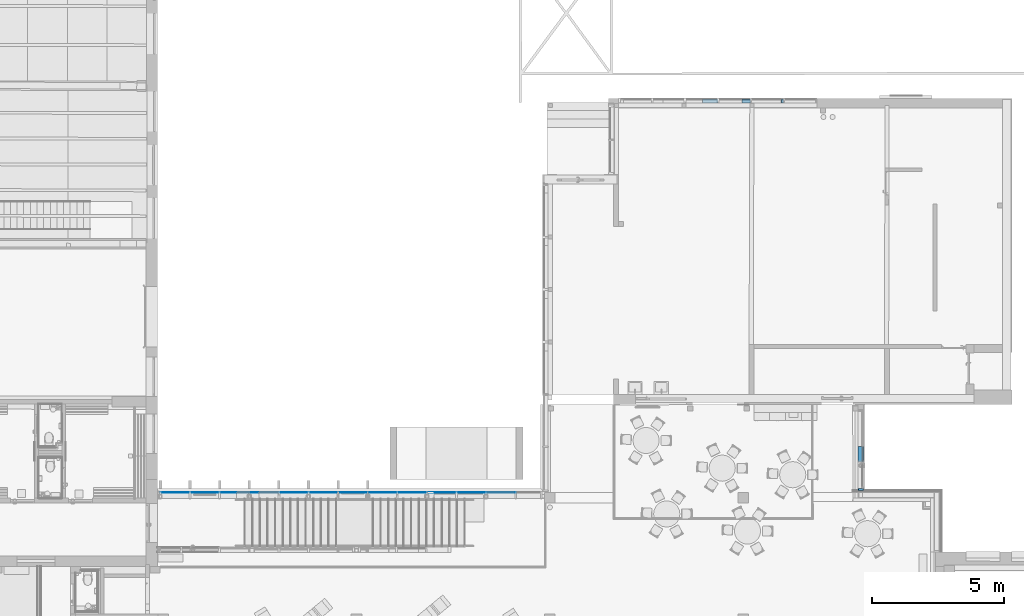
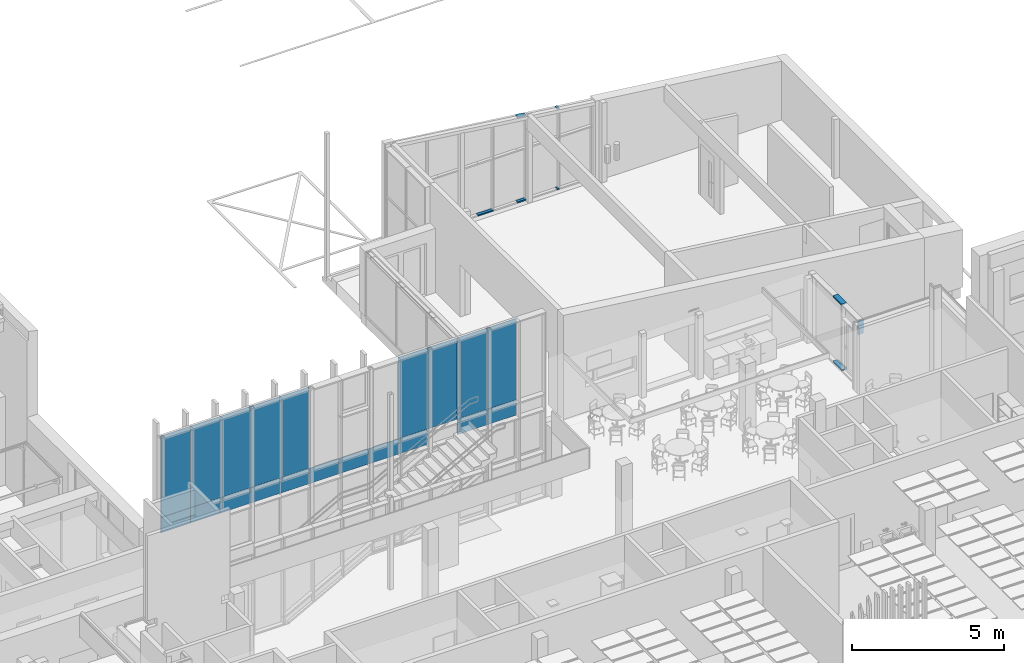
# One storey, part 6 of 301: 20 plates, 8 members, 3 elements without a shape of their own.
"""IFC2X3 building model written with IfcOpenShell, lengths in millimetres."""

from ifc_helpers import new_model, entity, si_unit, converted_unit, derived_unit, money_unit, direction, frame, origin_with_axes, place, context, subcontext, project, spatial, faceted_brep, source, transform, mapped, material, type_object, element, aggregate, save


model = new_model("IFC2X3")

# Units and contexts
model_context = context("Model", 3, precision=0.01, world=origin_with_axes(), true_north=direction((0.0, 1.0)))
body_context = subcontext(model_context, "Body", "Model", "MODEL_VIEW")
ifc_project = project(units=[si_unit("LENGTHUNIT", "METRE", prefix="MILLI"), si_unit("AREAUNIT", "SQUARE_METRE"), si_unit("VOLUMEUNIT", "CUBIC_METRE"), converted_unit("PLANEANGLEUNIT", "DEGREE", entity("IfcPlaneAngleMeasure", 0.0174532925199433), si_unit("PLANEANGLEUNIT", "RADIAN"), dimensions=[0, 0, 0, 0, 0, 0, 0]), money_unit("EUR"), converted_unit("TIMEUNIT", "Year", entity("IfcTimeMeasure", 31557600.0), si_unit("TIMEUNIT", "SECOND"), dimensions=[0, 0, 1, 0, 0, 0, 0]), si_unit("MASSUNIT", "GRAM", prefix="KILO"), si_unit("THERMODYNAMICTEMPERATUREUNIT", "DEGREE_CELSIUS"), si_unit("LUMINOUSINTENSITYUNIT", "LUMEN"), si_unit("ENERGYUNIT", "JOULE", prefix="MEGA"), derived_unit("THERMALCONDUCTANCEUNIT", [(si_unit("POWERUNIT", "WATT"), 1), (si_unit("LENGTHUNIT", "METRE"), -1), (si_unit("THERMODYNAMICTEMPERATUREUNIT", "KELVIN"), -1)]), derived_unit("SPECIFICHEATCAPACITYUNIT", [(si_unit("ENERGYUNIT", "JOULE"), 1), (si_unit("MASSUNIT", "GRAM", prefix="KILO"), -1), (si_unit("THERMODYNAMICTEMPERATUREUNIT", "KELVIN"), -1)]), derived_unit("MASSDENSITYUNIT", [(si_unit("MASSUNIT", "GRAM", prefix="KILO"), 1), (si_unit("VOLUMEUNIT", "CUBIC_METRE"), -1)])], contexts=[model_context])

# Site, building, storey
site_placement = place(None, frame((0.0, 0.0, 8650.0), z_axis=(0.0, 0.0, 1.0), x_axis=(1.0, 0.0, 0.0)))
site = spatial("IfcSite", under=ifc_project, at=site_placement, Name="43301:001:0844", CompositionType="ELEMENT")
building_placement = place(site_placement, origin_with_axes())
building = spatial("IfcBuilding", under=site, at=building_placement, Name="Kuressaare Ametikooli tuulikute mehaanikute õppekorpus", CompositionType="ELEMENT")
storey_placement = place(building_placement, origin_with_axes())
storey = spatial("IfcBuildingStorey", under=building, at=storey_placement, Name="1.korrus", CompositionType="ELEMENT", Elevation=0.0)

# Curtain wall, members
curtain_wall_type = type_object("IfcCurtainWallType", Name="Curtain Wall Type", PredefinedType="NOTDEFINED")
curtain_wall_1_placement = place(storey_placement, frame((130440.0312746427, 29344.34887802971, 34.99990943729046), z_axis=(0.0, 0.0, 1.0), x_axis=(1.0, 0.0, 0.0)))
curtain_wall_1 = element("IfcCurtainWall", 1, at=curtain_wall_1_placement, inside=storey, type_object=curtain_wall_type, Name="KF-2")
ifc_material_1 = material(Name="Aluminium")
member_type_1 = type_object("IfcMemberType", Name="Boundary Frame 50 x 200", PredefinedType="NOTDEFINED")
member_1_placement = place(curtain_wall_1_placement, frame((0.9667074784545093, -644.5809647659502, 2075.000044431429), z_axis=(0.0, -2.473884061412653e-10, 1.0), x_axis=(-0.001499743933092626, 0.9999988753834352, 2.473886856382e-10)))
member_1 = element("IfcMember", 2, at=member_1_placement, type_object=member_type_1, material=ifc_material_1, context=body_context, shape_type="Brep", body=[
    faceted_brep([(5.000000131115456, 19.99999999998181, 529.9999923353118), (25.0000001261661, 19.99999999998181, 509.9999923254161), (25.00000012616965, 159.9999999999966, 509.9999923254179), (-24.99999986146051, 159.9999999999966, 559.9999923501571), (-24.99999986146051, -40.00000000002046, 559.999992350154), (25.00000012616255, -40.00000000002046, 509.9999923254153), (25.0000001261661, -20.00000000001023, 509.9999923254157), (5.000000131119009, -19.99999999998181, 529.9999923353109), (5.00000000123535, 19.99999999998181, 4.999999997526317), (25.00000000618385, 19.99999999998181, 24.99999998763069), (25.00000000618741, 159.9999999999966, 24.99999998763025), (0.0, 159.9999999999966, 0.0), (-24.99999999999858, 159.9999999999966, 6.184830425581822e-09), (-24.99999999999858, -40.00000000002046, 6.184830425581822e-09), (0.0, -39.99999999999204, 0.0), (25.0000000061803, -40.00000000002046, 24.99999998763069), (25.00000000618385, -20.00000000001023, 24.99999998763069), (5.000000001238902, -19.99999999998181, 4.999999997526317)], [[[0, 1, 2, 3, 4, 5, 6, 7]], [[0, 8, 9, 1]], [[9, 10, 2, 1]], [[2, 10, 11, 12, 3]], [[3, 12, 13, 4]], [[13, 14, 15, 5, 4]], [[6, 5, 15, 16]], [[16, 17, 7, 6]], [[7, 17, 8, 0]], [[8, 17, 16, 15, 14, 11, 10, 9]], [[11, 14, 13, 12]]]),
])
member_2_placement = place(curtain_wall_1_placement, frame((-1.491552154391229, 994.53676327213, 0.0), z_axis=(0.001499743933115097, -0.9999988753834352, 0.0), x_axis=(0.0, 0.0, 1.0)))
member_2 = element("IfcMember", 3, at=member_2_placement, type_object=member_type_1, material=ifc_material_1, context=body_context, shape_type="Brep", body=[
    faceted_brep([(5.000000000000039, 20.00000000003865, 589.8167552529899), (25.00000000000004, 20.00000000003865, 589.8167552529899), (25.00000000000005, 159.9999999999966, 589.8167552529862), (-24.99999999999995, 159.9999999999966, 589.8167552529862), (-24.99999999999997, -39.99999999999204, 589.8167552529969), (25.00000000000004, -39.99999999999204, 589.8167552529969), (25.00000000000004, -20.00000000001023, 589.8167552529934), (5.000000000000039, -20.00000000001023, 589.8167552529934), (5.000000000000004, 19.99999999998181, 0.0), (25.0, 19.99999999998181, 0.0), (25.00000000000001, 159.9999999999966, 0.0), (-24.99999999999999, 159.9999999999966, 0.0), (-25.0, -40.00000000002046, 0.0), (24.99999999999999, -40.00000000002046, 0.0), (25.0, -20.00000000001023, 0.0), (4.999999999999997, -20.00000000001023, 0.0)], [[[0, 1, 2, 3, 4, 5, 6, 7]], [[0, 8, 9, 1]], [[9, 10, 2, 1]], [[10, 11, 3, 2]], [[11, 12, 4, 3]], [[12, 13, 5, 4]], [[6, 5, 13, 14]], [[14, 15, 7, 6]], [[7, 15, 8, 0]], [[8, 15, 14, 13, 12, 11, 10, 9]]]),
])
member_3_placement = place(curtain_wall_1_placement, frame((-0.6444716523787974, 429.7206432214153, 2610.000036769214), z_axis=(-0.001499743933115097, 0.9999988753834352, 0.0), x_axis=(0.0, 0.0, -1.0)))
member_3 = element("IfcMember", 4, at=member_3_placement, type_object=member_type_1, material=ifc_material_1, context=body_context, shape_type="Brep", body=[
    faceted_brep([(4.999999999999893, 19.99999999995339, 564.8167552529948), (24.99999999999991, 19.99999999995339, 564.8167552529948), (24.99999999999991, 159.9999999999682, 564.8167552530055), (-24.99999999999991, 159.9999999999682, 564.8167552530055), (-24.99999999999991, -40.00000000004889, 564.8167552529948), (24.99999999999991, -40.00000000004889, 564.8167552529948), (24.99999999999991, -20.00000000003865, 564.8167552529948), (4.999999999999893, -20.00000000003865, 564.8167552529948), (4.999999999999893, 19.99999999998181, 0.0), (24.99999999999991, 19.99999999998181, 0.0), (24.99999999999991, 159.9999999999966, 0.0), (-24.99999999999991, 159.9999999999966, 0.0), (-24.99999999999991, -40.00000000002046, 0.0), (24.99999999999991, -40.00000000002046, 0.0), (24.99999999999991, -20.00000000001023, 0.0), (4.999999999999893, -20.00000000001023, 0.0)], [[[0, 1, 2, 3, 4, 5, 6, 7]], [[0, 8, 9, 1]], [[9, 10, 2, 1]], [[10, 11, 3, 2]], [[11, 12, 4, 3]], [[12, 13, 5, 4]], [[6, 5, 13, 14]], [[14, 15, 7, 6]], [[7, 15, 8, 0]], [[8, 15, 14, 13, 12, 11, 10, 9]]]),
])
aggregate(curtain_wall_1, [member_1, member_2, member_3])

curtain_wall_2_placement = place(storey_placement, frame((123006.726034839, 43517.8284534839, -3.991420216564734e-05), z_axis=(0.0, 0.0, 1.0), x_axis=(1.0, 0.0, 0.0)))
curtain_wall_2 = element("IfcCurtainWall", 5, at=curtain_wall_2_placement, inside=storey, type_object=curtain_wall_type, Name="KF-XX")
ifc_material_2 = material(Name="Metall - Alumiinium")
member_type_2 = type_object("IfcMemberType", Name="Boundary Frame 50 x 150", PredefinedType="NOTDEFINED")
member_4_placement = place(curtain_wall_2_placement, frame((4357.128657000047, 0.0, 3288.367086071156), z_axis=(0.9924854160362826, 0.0, -0.1223629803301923), x_axis=(-0.1223629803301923, 0.0, -0.9924854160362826)))
member_4 = element("IfcMember", 6, at=member_4_placement, type_object=member_type_2, material=ifc_material_2, context=body_context, shape_type="Brep", body=[
    faceted_brep([(35.00000000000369, -9.99999999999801, 88.10075471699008), (35.00000000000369, 9.99999999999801, 88.10075471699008), (50.00000000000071, 9.99999999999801, 88.10075471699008), (50.00000000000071, 30.00000000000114, 88.10075471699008), (0.0, 30.00000000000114, 88.10075471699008), (0.0, 0.0, 88.10075471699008), (0.0, -119.9999999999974, 88.10075471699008), (50.00000000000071, -119.9999999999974, 88.10075471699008), (50.00000000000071, -9.99999999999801, 88.10075471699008), (35.00000000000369, -9.99999999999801, -1.330064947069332e-06), (35.00000000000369, 9.99999999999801, -1.330064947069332e-06), (50.00000000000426, 9.99999999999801, -1.330079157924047e-06), (50.00000000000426, 30.00000000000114, -1.330079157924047e-06), (0.0, 30.00000000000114, -1.330050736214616e-06), (0.0, 0.0, -1.330050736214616e-06), (0.0, -119.9999999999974, -1.330050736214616e-06), (50.00000000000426, -119.9999999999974, -1.330079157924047e-06), (50.00000000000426, -9.99999999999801, -1.330079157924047e-06)], [[[0, 1, 2, 3, 4, 5, 6, 7, 8]], [[1, 0, 9, 10]], [[11, 2, 1, 10]], [[2, 11, 12, 3]], [[13, 4, 3, 12]], [[14, 5, 4, 13]], [[15, 6, 5, 14]], [[16, 7, 6, 15]], [[17, 8, 7, 16]], [[0, 8, 17, 9]], [[9, 17, 16, 15, 14, 13, 12, 11, 10]]]),
])
member_5_placement = place(curtain_wall_2_placement, frame((2857.128657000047, 0.0, 3473.30117892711), z_axis=(0.9924854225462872, 0.0, -0.1223629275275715), x_axis=(-0.1223629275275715, 0.0, -0.9924854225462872)))
member_5 = element("IfcMember", 7, at=member_5_placement, type_object=member_type_2, material=ifc_material_2, context=body_context, shape_type="Brep", body=[
    faceted_brep([(35.00000000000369, -9.99999999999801, 334.4755428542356), (35.00000000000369, 9.99999999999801, 334.4755428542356), (50.00000000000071, 9.99999999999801, 334.4755428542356), (50.00000000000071, 30.00000000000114, 334.4755428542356), (0.0, 30.00000000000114, 334.4755428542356), (0.0, 0.0, 334.4755428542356), (0.0, -119.9999999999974, 334.4755428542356), (50.00000000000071, -119.9999999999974, 334.4755428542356), (50.00000000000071, -9.99999999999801, 334.4755428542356), (35.00000000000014, -9.99999999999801, -6.635048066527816e-07), (35.00000000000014, 9.99999999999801, -6.635048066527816e-07), (50.00000000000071, 9.99999999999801, -6.635190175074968e-07), (50.00000000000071, 30.00000000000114, -6.635190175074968e-07), (0.0, 30.00000000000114, -6.635190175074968e-07), (0.0, 0.0, -6.635190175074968e-07), (0.0, -119.9999999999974, -6.635190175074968e-07), (50.00000000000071, -119.9999999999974, -6.635190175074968e-07), (50.00000000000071, -9.99999999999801, -6.635190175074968e-07)], [[[0, 1, 2, 3, 4, 5, 6, 7, 8]], [[1, 0, 9, 10]], [[11, 2, 1, 10]], [[2, 11, 12, 3]], [[13, 4, 3, 12]], [[14, 5, 4, 13]], [[15, 6, 5, 14]], [[16, 7, 6, 15]], [[17, 8, 7, 16]], [[0, 8, 17, 9]], [[9, 17, 16, 15, 14, 13, 12, 11, 10]]]),
])
member_6_placement = place(curtain_wall_2_placement, frame((1945.71281708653, 0.0, 0.0), z_axis=(-1.0, 0.0, 0.0), x_axis=(0.0, 0.0, 1.0)))
member_6 = element("IfcMember", 8, at=member_6_placement, type_object=member_type_2, material=ifc_material_2, context=body_context, shape_type="Brep", body=[
    faceted_brep([(35.0, -9.99999999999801, 588.5841600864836), (35.0, 9.99999999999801, 588.5841600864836), (50.0, 9.99999999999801, 588.5841600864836), (50.0, 30.00000000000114, 588.5841600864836), (0.0, 30.00000000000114, 588.5841600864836), (0.0, 0.0, 588.5841600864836), (0.0, -119.9999999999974, 588.5841600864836), (50.0, -119.9999999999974, 588.5841600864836), (50.0, -9.99999999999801, 588.5841600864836), (35.0, -9.99999999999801, 0.0), (35.0, 9.99999999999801, 0.0), (50.0, 9.99999999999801, 0.0), (50.0, 30.00000000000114, 0.0), (0.0, 30.00000000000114, 0.0), (0.0, 0.0, 0.0), (0.0, -119.9999999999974, 0.0), (50.0, -119.9999999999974, 0.0), (50.0, -9.99999999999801, 0.0)], [[[0, 1, 2, 3, 4, 5, 6, 7, 8]], [[1, 0, 9, 10]], [[11, 2, 1, 10]], [[2, 11, 12, 3]], [[13, 4, 3, 12]], [[14, 5, 4, 13]], [[15, 6, 5, 14]], [[16, 7, 6, 15]], [[17, 8, 7, 16]], [[0, 8, 17, 9]], [[9, 17, 16, 15, 14, 13, 12, 11, 10]]]),
])
member_7_placement = place(curtain_wall_2_placement, frame((3189.090760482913, 0.0, 0.0), z_axis=(-1.0, 0.0, 0.0), x_axis=(0.0, 0.0, 1.0)))
member_7 = element("IfcMember", 9, at=member_7_placement, type_object=member_type_2, material=ifc_material_2, context=body_context, shape_type="Brep", body=[
    faceted_brep([(35.0, -9.99999999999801, 331.9621034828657), (35.0, 9.99999999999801, 331.9621034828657), (50.0, 9.99999999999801, 331.9621034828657), (50.0, 30.00000000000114, 331.9621034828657), (0.0, 30.00000000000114, 331.9621034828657), (0.0, 0.0, 331.9621034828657), (0.0, -119.9999999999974, 331.9621034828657), (50.0, -119.9999999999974, 331.9621034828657), (50.0, -9.99999999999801, 331.9621034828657), (35.0, -9.99999999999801, 0.0), (35.0, 9.99999999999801, 0.0), (50.0, 9.99999999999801, 0.0), (50.0, 30.00000000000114, 0.0), (0.0, 30.00000000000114, 0.0), (0.0, 0.0, 0.0), (0.0, -119.9999999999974, 0.0), (50.0, -119.9999999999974, 0.0), (50.0, -9.99999999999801, 0.0)], [[[0, 1, 2, 3, 4, 5, 6, 7, 8]], [[1, 0, 9, 10]], [[11, 2, 1, 10]], [[2, 11, 12, 3]], [[13, 4, 3, 12]], [[14, 5, 4, 13]], [[15, 6, 5, 14]], [[16, 7, 6, 15]], [[17, 8, 7, 16]], [[0, 8, 17, 9]], [[9, 17, 16, 15, 14, 13, 12, 11, 10]]]),
])
member_8_placement = place(curtain_wall_2_placement, frame((4444.567365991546, 0.0, 0.0), z_axis=(-1.0, 0.0, 0.0), x_axis=(0.0, 0.0, 1.0)))
member_8 = element("IfcMember", 10, at=member_8_placement, type_object=member_type_2, material=ifc_material_2, context=body_context, shape_type="Brep", body=[
    faceted_brep([(35.0, -9.99999999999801, 87.43870899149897), (35.0, 9.99999999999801, 87.43870899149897), (50.0, 9.99999999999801, 87.43870899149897), (50.0, 30.00000000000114, 87.43870899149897), (0.0, 30.00000000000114, 87.43870899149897), (0.0, 0.0, 87.43870899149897), (0.0, -119.9999999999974, 87.43870899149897), (50.0, -119.9999999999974, 87.43870899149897), (50.0, -9.99999999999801, 87.43870899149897), (35.0, -9.99999999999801, 0.0), (35.0, 9.99999999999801, 0.0), (50.0, 9.99999999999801, 0.0), (50.0, 30.00000000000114, 0.0), (0.0, 30.00000000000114, 0.0), (0.0, 0.0, 0.0), (0.0, -119.9999999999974, 0.0), (50.0, -119.9999999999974, 0.0), (50.0, -9.99999999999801, 0.0)], [[[0, 1, 2, 3, 4, 5, 6, 7, 8]], [[1, 0, 9, 10]], [[11, 2, 1, 10]], [[2, 11, 12, 3]], [[13, 4, 3, 12]], [[14, 5, 4, 13]], [[15, 6, 5, 14]], [[16, 7, 6, 15]], [[17, 8, 7, 16]], [[0, 8, 17, 9]], [[9, 17, 16, 15, 14, 13, 12, 11, 10]]]),
])
aggregate(curtain_wall_2, [member_4, member_5, member_6, member_7, member_8])

# Curtain wall, plates
curtain_wall_3_placement = place(storey_placement, frame((116704.6026822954, 28579.57374875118, 35.00000000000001), z_axis=(0.0, 0.0, 1.0), x_axis=(1.0, 0.0, 0.0)))
curtain_wall_3 = element("IfcCurtainWall", 11, at=curtain_wall_3_placement, inside=storey, type_object=curtain_wall_type, Name="KF-1.1")
plate_type_1 = type_object("IfcPlateType", Name="1115 x 610 x 20", PredefinedType="NOTDEFINED")
shared_shape_1 = source(origin_with_axes(), body_context, "Body", "Brep", [
    faceted_brep([(-1120.00000558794, 4085.000008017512, -10.0), (-1120.00000558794, 4085.000008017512, 10.0), (-4.999994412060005, 4085.000008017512, 10.0), (-4.999994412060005, 4085.000008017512, -10.0), (-1120.00000558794, 3475.000002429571, -10.0), (-1120.00000558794, 3475.000002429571, 10.0), (-4.999994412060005, 3475.000002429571, 10.0), (-4.999994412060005, 3475.000002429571, -10.0)], [[[0, 1, 2, 3]], [[4, 5, 1, 0]], [[1, 5, 6, 2]], [[3, 2, 6, 7]], [[0, 3, 7, 4]], [[7, 6, 5, 4]]]),
])
plate_1_placement = place(curtain_wall_3_placement, frame((-1125.0, 0.0, 3780.000004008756), z_axis=(0.0, 0.0, 1.0), x_axis=(-1.0, 0.0, 0.0)))
plate_1 = element("IfcPlate", 12, at=plate_1_placement, type_object=plate_type_1, material=ifc_material_1, context=body_context, shape_type="MappedRepresentation", body=[
    mapped(shared_shape_1, transform((562.5, 0.0, -3780.000004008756), x_axis=(1.0, 0.0, 0.0), y_axis=(0.0, 0.0, 1.0), z_axis=(0.0, -1.0, 0.0))),
])
plate_2_placement = place(curtain_wall_3_placement, frame((0.0, 0.0, 3780.000004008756), z_axis=(0.0, 0.0, 1.0), x_axis=(-1.0, 0.0, 0.0)))
plate_2 = element("IfcPlate", 13, at=plate_2_placement, type_object=plate_type_1, material=ifc_material_1, context=body_context, shape_type="MappedRepresentation", body=[
    mapped(shared_shape_1, transform((562.5, 0.0, -3780.000004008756), x_axis=(1.0, 0.0, 0.0), y_axis=(0.0, 0.0, 1.0), z_axis=(0.0, -1.0, 0.0))),
])
plate_3_placement = place(curtain_wall_3_placement, frame((-5625.0, 0.0, 3780.000004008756), z_axis=(0.0, 0.0, 1.0), x_axis=(-1.0, 0.0, 0.0)))
plate_3 = element("IfcPlate", 14, at=plate_3_placement, type_object=plate_type_1, material=ifc_material_1, context=body_context, shape_type="MappedRepresentation", body=[
    mapped(shared_shape_1, transform((562.5, 0.0, -3780.000004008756), x_axis=(1.0, 0.0, 0.0), y_axis=(0.0, 0.0, 1.0), z_axis=(0.0, -1.0, 0.0))),
])
plate_4_placement = place(curtain_wall_3_placement, frame((-11250.0, 0.0, 3780.000004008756), z_axis=(0.0, 0.0, 1.0), x_axis=(-1.0, 0.0, 0.0)))
plate_4 = element("IfcPlate", 15, at=plate_4_placement, type_object=plate_type_1, material=ifc_material_1, context=body_context, shape_type="MappedRepresentation", body=[
    mapped(shared_shape_1, transform((562.5, 0.0, -3780.000004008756), x_axis=(1.0, 0.0, 0.0), y_axis=(0.0, 0.0, 1.0), z_axis=(0.0, -1.0, 0.0))),
])
plate_5_placement = place(curtain_wall_3_placement, frame((-3375.0, 0.0, 3780.000004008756), z_axis=(0.0, 0.0, 1.0), x_axis=(-1.0, 0.0, 0.0)))
plate_5 = element("IfcPlate", 16, at=plate_5_placement, type_object=plate_type_1, material=ifc_material_1, context=body_context, shape_type="MappedRepresentation", body=[
    mapped(shared_shape_1, transform((562.5, 0.0, -3780.000004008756), x_axis=(1.0, 0.0, 0.0), y_axis=(0.0, 0.0, 1.0), z_axis=(0.0, -1.0, 0.0))),
])
plate_6_placement = place(curtain_wall_3_placement, frame((-6750.0, 0.0, 3780.000004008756), z_axis=(0.0, 0.0, 1.0), x_axis=(-1.0, 0.0, 0.0)))
plate_6 = element("IfcPlate", 17, at=plate_6_placement, type_object=plate_type_1, material=ifc_material_1, context=body_context, shape_type="MappedRepresentation", body=[
    mapped(shared_shape_1, transform((562.5, 0.0, -3780.000004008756), x_axis=(1.0, 0.0, 0.0), y_axis=(0.0, 0.0, 1.0), z_axis=(0.0, -1.0, 0.0))),
])
plate_7_placement = place(curtain_wall_3_placement, frame((-4500.0, 0.0, 3780.000004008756), z_axis=(0.0, 0.0, 1.0), x_axis=(-1.0, 0.0, 0.0)))
plate_7 = element("IfcPlate", 18, at=plate_7_placement, type_object=plate_type_1, material=ifc_material_1, context=body_context, shape_type="MappedRepresentation", body=[
    mapped(shared_shape_1, transform((562.5, 0.0, -3780.000004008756), x_axis=(1.0, 0.0, 0.0), y_axis=(0.0, 0.0, 1.0), z_axis=(0.0, -1.0, 0.0))),
])
plate_8_placement = place(curtain_wall_3_placement, frame((-7875.0, 0.0, 3780.000004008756), z_axis=(0.0, 0.0, 1.0), x_axis=(-1.0, 0.0, 0.0)))
plate_8 = element("IfcPlate", 19, at=plate_8_placement, type_object=plate_type_1, material=ifc_material_1, context=body_context, shape_type="MappedRepresentation", body=[
    mapped(shared_shape_1, transform((562.5, 0.0, -3780.000004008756), x_axis=(1.0, 0.0, 0.0), y_axis=(0.0, 0.0, 1.0), z_axis=(0.0, -1.0, 0.0))),
])
plate_9_placement = place(curtain_wall_3_placement, frame((-9000.0, 0.0, 3780.000004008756), z_axis=(0.0, 0.0, 1.0), x_axis=(-1.0, 0.0, 0.0)))
plate_9 = element("IfcPlate", 20, at=plate_9_placement, type_object=plate_type_1, material=ifc_material_1, context=body_context, shape_type="MappedRepresentation", body=[
    mapped(shared_shape_1, transform((562.5, 0.0, -3780.000004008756), x_axis=(1.0, 0.0, 0.0), y_axis=(0.0, 0.0, 1.0), z_axis=(0.0, -1.0, 0.0))),
])
plate_10_placement = place(curtain_wall_3_placement, frame((-10125.0, 0.0, 3780.000004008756), z_axis=(0.0, 0.0, 1.0), x_axis=(-1.0, 0.0, 0.0)))
plate_10 = element("IfcPlate", 21, at=plate_10_placement, type_object=plate_type_1, material=ifc_material_1, context=body_context, shape_type="MappedRepresentation", body=[
    mapped(shared_shape_1, transform((562.5, 0.0, -3780.000004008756), x_axis=(1.0, 0.0, 0.0), y_axis=(0.0, 0.0, 1.0), z_axis=(0.0, -1.0, 0.0))),
])
plate_11_placement = place(curtain_wall_3_placement, frame((-12375.0, 0.0, 3780.000004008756), z_axis=(0.0, 0.0, 1.0), x_axis=(-1.0, 0.0, 0.0)))
plate_11 = element("IfcPlate", 22, at=plate_11_placement, type_object=plate_type_1, material=ifc_material_1, context=body_context, shape_type="MappedRepresentation", body=[
    mapped(shared_shape_1, transform((562.5, 0.0, -3780.000004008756), x_axis=(1.0, 0.0, 0.0), y_axis=(0.0, 0.0, 1.0), z_axis=(0.0, -1.0, 0.0))),
])
ifc_material_3 = material(Name="Klaas")
plate_type_2 = type_object("IfcPlateType", Name="Main Panel 1115 x 3260 x 20", PredefinedType="NOTDEFINED")
shared_shape_2 = source(origin_with_axes(), body_context, "Body", "Brep", [
    faceted_brep([(-1119.999978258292, 3264.999938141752, -10.0), (-1119.999978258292, 3264.999938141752, 10.0), (-5.000007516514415, 3264.999938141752, 10.0), (-5.000007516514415, 3264.999938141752, -10.0), (-1119.999978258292, 5.000007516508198, -10.0), (-1119.999978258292, 5.000007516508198, 10.0), (-5.000007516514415, 5.000007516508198, 10.0), (-5.000007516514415, 5.000007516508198, -10.0)], [[[0, 1, 2, 3]], [[4, 5, 1, 0]], [[1, 5, 6, 2]], [[3, 2, 6, 7]], [[0, 3, 7, 4]], [[7, 6, 5, 4]]]),
])
plate_12_placement = place(curtain_wall_3_placement, frame((-1125.0, 0.0, 5724.99997282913), z_axis=(0.0, 0.0, 1.0), x_axis=(-1.0, 0.0, 0.0)))
plate_12 = element("IfcPlate", 23, at=plate_12_placement, type_object=plate_type_2, material=ifc_material_3, context=body_context, shape_type="MappedRepresentation", body=[
    mapped(shared_shape_2, transform((562.5, 0.0, -1634.99997282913), x_axis=(1.0, 0.0, 0.0), y_axis=(0.0, 0.0, 1.0), z_axis=(0.0, -1.0, 0.0))),
])
plate_13_placement = place(curtain_wall_3_placement, frame((0.0, 0.0, 5724.99997282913), z_axis=(0.0, 0.0, 1.0), x_axis=(-1.0, 0.0, 0.0)))
plate_13 = element("IfcPlate", 24, at=plate_13_placement, type_object=plate_type_2, material=ifc_material_3, context=body_context, shape_type="MappedRepresentation", body=[
    mapped(shared_shape_2, transform((562.5, 0.0, -1634.99997282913), x_axis=(1.0, 0.0, 0.0), y_axis=(0.0, 0.0, 1.0), z_axis=(0.0, -1.0, 0.0))),
])
plate_14_placement = place(curtain_wall_3_placement, frame((-2250.0, 0.0, 5724.99997282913), z_axis=(0.0, 0.0, 1.0), x_axis=(-1.0, 0.0, 0.0)))
plate_14 = element("IfcPlate", 25, at=plate_14_placement, type_object=plate_type_2, material=ifc_material_3, context=body_context, shape_type="MappedRepresentation", body=[
    mapped(shared_shape_2, transform((562.5, 0.0, -1634.99997282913), x_axis=(1.0, 0.0, 0.0), y_axis=(0.0, 0.0, 1.0), z_axis=(0.0, -1.0, 0.0))),
])
plate_15_placement = place(curtain_wall_3_placement, frame((-7875.0, 0.0, 5724.99997282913), z_axis=(0.0, 0.0, 1.0), x_axis=(-1.0, 0.0, 0.0)))
plate_15 = element("IfcPlate", 26, at=plate_15_placement, type_object=plate_type_2, material=ifc_material_3, context=body_context, shape_type="MappedRepresentation", body=[
    mapped(shared_shape_2, transform((562.5, 0.0, -1634.99997282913), x_axis=(1.0, 0.0, 0.0), y_axis=(0.0, 0.0, 1.0), z_axis=(0.0, -1.0, 0.0))),
])
plate_16_placement = place(curtain_wall_3_placement, frame((-3375.0, 0.0, 5724.99997282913), z_axis=(0.0, 0.0, 1.0), x_axis=(-1.0, 0.0, 0.0)))
plate_16 = element("IfcPlate", 27, at=plate_16_placement, type_object=plate_type_2, material=ifc_material_3, context=body_context, shape_type="MappedRepresentation", body=[
    mapped(shared_shape_2, transform((562.5, 0.0, -1634.99997282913), x_axis=(1.0, 0.0, 0.0), y_axis=(0.0, 0.0, 1.0), z_axis=(0.0, -1.0, 0.0))),
])
plate_17_placement = place(curtain_wall_3_placement, frame((-9000.0, 0.0, 5724.99997282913), z_axis=(0.0, 0.0, 1.0), x_axis=(-1.0, 0.0, 0.0)))
plate_17 = element("IfcPlate", 28, at=plate_17_placement, type_object=plate_type_2, material=ifc_material_3, context=body_context, shape_type="MappedRepresentation", body=[
    mapped(shared_shape_2, transform((562.5, 0.0, -1634.99997282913), x_axis=(1.0, 0.0, 0.0), y_axis=(0.0, 0.0, 1.0), z_axis=(0.0, -1.0, 0.0))),
])
plate_18_placement = place(curtain_wall_3_placement, frame((-11250.0, 0.0, 5724.99997282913), z_axis=(0.0, 0.0, 1.0), x_axis=(-1.0, 0.0, 0.0)))
plate_18 = element("IfcPlate", 29, at=plate_18_placement, type_object=plate_type_2, material=ifc_material_3, context=body_context, shape_type="MappedRepresentation", body=[
    mapped(shared_shape_2, transform((562.5, 0.0, -1634.99997282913), x_axis=(1.0, 0.0, 0.0), y_axis=(0.0, 0.0, 1.0), z_axis=(0.0, -1.0, 0.0))),
])
plate_19_placement = place(curtain_wall_3_placement, frame((-12375.0, 0.0, 5724.99997282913), z_axis=(0.0, 0.0, 1.0), x_axis=(-1.0, 0.0, 0.0)))
plate_19 = element("IfcPlate", 30, at=plate_19_placement, type_object=plate_type_2, material=ifc_material_3, context=body_context, shape_type="MappedRepresentation", body=[
    mapped(shared_shape_2, transform((562.5, 0.0, -1634.99997282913), x_axis=(1.0, 0.0, 0.0), y_axis=(0.0, 0.0, 1.0), z_axis=(0.0, -1.0, 0.0))),
])
plate_20_placement = place(curtain_wall_3_placement, frame((-10125.0, 0.0, 5724.99997282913), z_axis=(0.0, 0.0, 1.0), x_axis=(-1.0, 0.0, 0.0)))
plate_20 = element("IfcPlate", 31, at=plate_20_placement, type_object=plate_type_2, material=ifc_material_3, context=body_context, shape_type="MappedRepresentation", body=[
    mapped(shared_shape_2, transform((562.5, 0.0, -1634.99997282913), x_axis=(1.0, 0.0, 0.0), y_axis=(0.0, 0.0, 1.0), z_axis=(0.0, -1.0, 0.0))),
])
aggregate(curtain_wall_3, [plate_1, plate_2, plate_3, plate_4, plate_5, plate_6, plate_7, plate_12, plate_8, plate_9, plate_10, plate_13, plate_11, plate_14, plate_15, plate_16, plate_17, plate_18, plate_19, plate_20])

save(model, "model.ifc")
